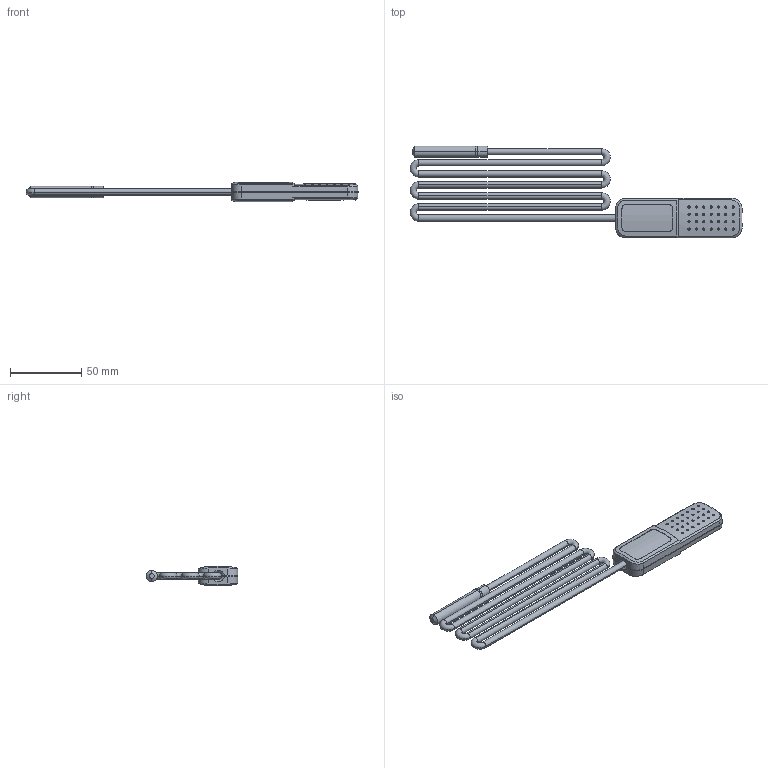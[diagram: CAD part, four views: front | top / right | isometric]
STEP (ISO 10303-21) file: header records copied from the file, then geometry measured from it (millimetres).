
FILE_DESCRIPTION (( 'STEP AP214' ), '1' );
FILE_NAME ('PTH-TRH450.STEP', '2024-05-14T00:07:21', ( '' ), ( '' ), 'SwSTEP 2.0', 'SolidWorks 2021', '' );
FILE_SCHEMA (( 'AUTOMOTIVE_DESIGN' ));
Length unit declared in the file: millimetre
Products named in the file (1): PTH-TRH450
Bounding box: 233.49 x 64.63 x 14 mm (x, y, z)
Volume: 46280.1 mm3; surface area: 22700.6 mm2
Topology: 3 solids, 3 shells, 851 faces, 2184 edges, 1442 vertices
Faces by surface type: plane 344, bspline 340, cylinder 147, torus 14, cone 6
Entity records: 41729 total; most frequent: CARTESIAN_POINT 23483, ORIENTED_EDGE 4368, DIRECTION 2720, EDGE_CURVE 2184, VERTEX_POINT 1442, LINE 984, VECTOR 984, EDGE_LOOP 954
